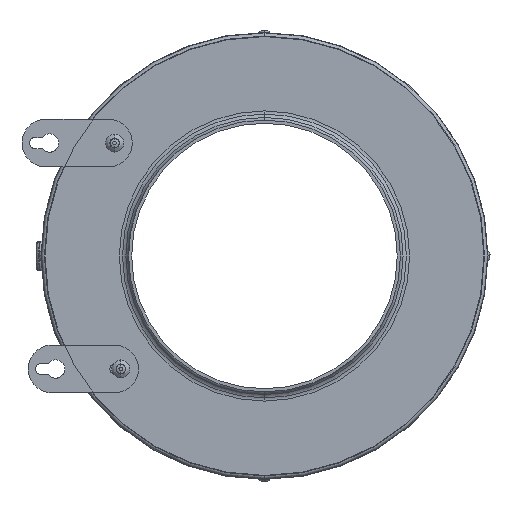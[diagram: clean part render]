
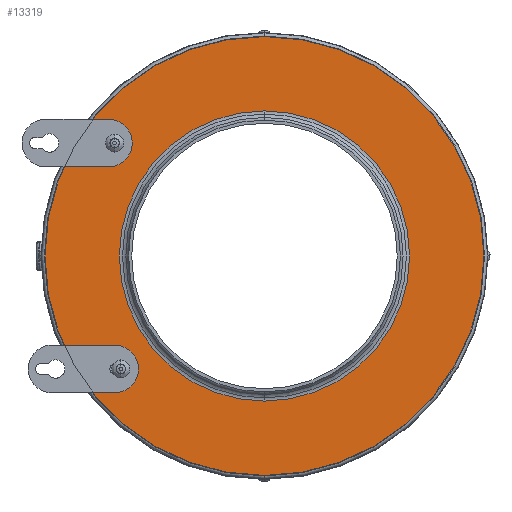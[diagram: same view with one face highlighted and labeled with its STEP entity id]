
A CAD part, left-side view. The second image highlights one B-rep face of the part: STEP entity #13319.
In plain terms, the highlighted planar face has unit normal (-1, 0, 0).
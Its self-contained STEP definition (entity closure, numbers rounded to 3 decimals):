
#12502=CARTESIAN_POINT('',(-4.3,-615.891,854.891));
#12503=DIRECTION('',(-1.,0.,0.));
#12504=DIRECTION('',(0.,0.,1.));
#12505=AXIS2_PLACEMENT_3D('',#12502,#12503,#12504);
#12507=CARTESIAN_POINT('',(-4.3,-615.891,854.891));
#12508=DIRECTION('',(-1.,0.,0.));
#12509=DIRECTION('',(0.,0.,-1.));
#12510=AXIS2_PLACEMENT_3D('',#12507,#12508,#12509);
#12512=CARTESIAN_POINT('',(-4.3,-697.512,793.386));
#12513=DIRECTION('',(-1.,0.,0.));
#12514=DIRECTION('',(0.,1.,0.));
#12515=AXIS2_PLACEMENT_3D('',#12512,#12513,#12514);
#12517=CARTESIAN_POINT('',(-4.3,-697.512,793.386));
#12518=DIRECTION('',(-1.,0.,0.));
#12519=DIRECTION('',(0.,-1.,0.));
#12520=AXIS2_PLACEMENT_3D('',#12517,#12518,#12519);
#12522=CARTESIAN_POINT('',(-4.3,-697.512,916.397));
#12523=DIRECTION('',(-1.,0.,0.));
#12524=DIRECTION('',(0.,1.,0.));
#12525=AXIS2_PLACEMENT_3D('',#12522,#12523,#12524);
#12527=CARTESIAN_POINT('',(-4.3,-697.512,916.397));
#12528=DIRECTION('',(-1.,0.,0.));
#12529=DIRECTION('',(0.,-1.,0.));
#12530=AXIS2_PLACEMENT_3D('',#12527,#12528,#12529);
#12532=CARTESIAN_POINT('',(-4.3,-615.891,854.891));
#12533=DIRECTION('',(1.,0.,0.));
#12534=DIRECTION('',(0.,0.,-1.));
#12535=AXIS2_PLACEMENT_3D('',#12532,#12533,#12534);
#12537=CARTESIAN_POINT('',(-4.3,-615.891,854.891));
#12538=DIRECTION('',(1.,0.,0.));
#12539=DIRECTION('',(0.,0.,1.));
#12540=AXIS2_PLACEMENT_3D('',#12537,#12538,#12539);
#12918=CARTESIAN_POINT('',(-4.3,-615.891,735.391));
#12919=CARTESIAN_POINT('',(-4.3,-615.891,974.391));
#12920=VERTEX_POINT('',#12918);
#12921=VERTEX_POINT('',#12919);
#12946=CARTESIAN_POINT('',(-4.3,-700.112,916.397));
#12948=VERTEX_POINT('',#12946);
#12950=CARTESIAN_POINT('',(-4.3,-694.912,916.397));
#12952=VERTEX_POINT('',#12950);
#12954=CARTESIAN_POINT('',(-4.3,-700.112,793.386));
#12956=VERTEX_POINT('',#12954);
#12958=CARTESIAN_POINT('',(-4.3,-694.912,793.386));
#12960=VERTEX_POINT('',#12958);
#12962=CARTESIAN_POINT('',(-4.3,-615.891,933.891));
#12964=VERTEX_POINT('',#12962);
#12968=CARTESIAN_POINT('',(-4.3,-615.891,775.891));
#12969=VERTEX_POINT('',#12968);
#13292=CARTESIAN_POINT('',(-4.3,-615.891,854.891));
#13293=DIRECTION('',(-1.,0.,0.));
#13294=DIRECTION('',(0.,0.,-1.));
#13295=AXIS2_PLACEMENT_3D('',#13292,#13293,#13294);
#13296=PLANE('',#13295);
#13297=ORIENTED_EDGE('',*,*,#13286,.T.);
#13298=ORIENTED_EDGE('',*,*,#13272,.T.);
#13299=EDGE_LOOP('',(#13297,#13298));
#13300=FACE_OUTER_BOUND('',#13299,.F.);
#13302=ORIENTED_EDGE('',*,*,#13301,.T.);
#13304=ORIENTED_EDGE('',*,*,#13303,.T.);
#13305=EDGE_LOOP('',(#13302,#13304));
#13306=FACE_BOUND('',#13305,.F.);
#13308=ORIENTED_EDGE('',*,*,#13307,.T.);
#13310=ORIENTED_EDGE('',*,*,#13309,.T.);
#13311=EDGE_LOOP('',(#13308,#13310));
#13312=FACE_BOUND('',#13311,.F.);
#13314=ORIENTED_EDGE('',*,*,#13313,.T.);
#13316=ORIENTED_EDGE('',*,*,#13315,.T.);
#13317=EDGE_LOOP('',(#13314,#13316));
#13318=FACE_BOUND('',#13317,.F.);
#13319=ADVANCED_FACE('',(#13300,#13306,#13312,#13318),#13296,.T.);
#12506=CIRCLE('',#12505,79.);
#12511=CIRCLE('',#12510,79.);
#12516=CIRCLE('',#12515,2.6);
#12521=CIRCLE('',#12520,2.6);
#12526=CIRCLE('',#12525,2.6);
#12531=CIRCLE('',#12530,2.6);
#12536=CIRCLE('',#12535,119.5);
#12541=CIRCLE('',#12540,119.5);
#13272=EDGE_CURVE('',#12921,#12920,#12541,.T.);
#13286=EDGE_CURVE('',#12920,#12921,#12536,.T.);
#13301=EDGE_CURVE('',#12960,#12956,#12516,.T.);
#13303=EDGE_CURVE('',#12956,#12960,#12521,.T.);
#13307=EDGE_CURVE('',#12952,#12948,#12526,.T.);
#13309=EDGE_CURVE('',#12948,#12952,#12531,.T.);
#13313=EDGE_CURVE('',#12964,#12969,#12506,.T.);
#13315=EDGE_CURVE('',#12969,#12964,#12511,.T.);
